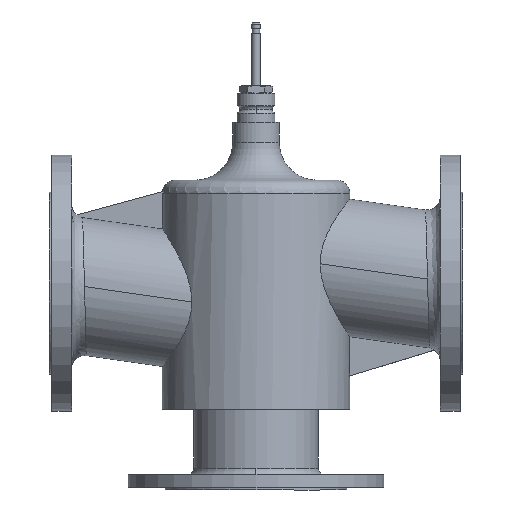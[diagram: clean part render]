
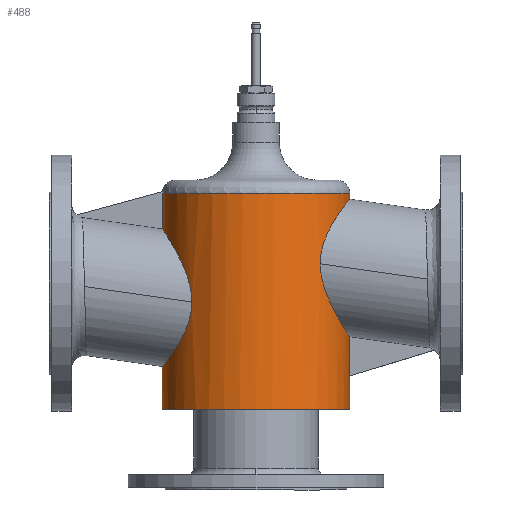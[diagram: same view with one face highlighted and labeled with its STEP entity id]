
A CAD part, left-side view. The second image highlights one B-rep face of the part: STEP entity #488.
In plain terms, the highlighted cylindrical face has radius 108.672 mm (diameter 217.344 mm), a partial arc.
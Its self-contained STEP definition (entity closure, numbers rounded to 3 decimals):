
#91=FACE_OUTER_BOUND('',#812,.T.);
#177=CYLINDRICAL_SURFACE('',#2401,108.672);
#246=ELLIPSE('',#2398,113.596,108.672);
#258=B_SPLINE_CURVE_WITH_KNOTS('',3,(#3591,#3592,#3593,#3594,#3595,#3596,
#3597,#3598,#3599,#3600,#3601,#3602,#3603,#3604,#3605,#3606),.UNSPECIFIED.,
 .F.,.F.,(4,2,2,2,2,2,2,4),(0.,0.125,0.25,0.375,
0.5,0.75,0.875,1.),.UNSPECIFIED.);
#262=B_SPLINE_CURVE_WITH_KNOTS('',3,(#3657,#3658,#3659,#3660,#3661,#3662,
#3663,#3664,#3665,#3666,#3667,#3668,#3669,#3670,#3671,#3672,#3673,#3674),
 .UNSPECIFIED.,.F.,.F.,(4,2,2,2,2,2,2,2,4),(0.,0.125,0.25,0.375,0.5,0.625,
0.75,0.875,1.),.UNSPECIFIED.);
#276=B_SPLINE_CURVE_WITH_KNOTS('',3,(#4368,#4369,#4370,#4371,#4372,#4373,
#4374,#4375,#4376,#4377,#4378,#4379,#4380,#4381,#4382,#4383),.UNSPECIFIED.,
 .F.,.F.,(4,2,2,2,2,2,2,4),(0.,0.125,0.25,0.375,0.5,0.75,0.875,1.),.UNSPECIFIED.);
#277=B_SPLINE_CURVE_WITH_KNOTS('',3,(#4389,#4390,#4391,#4392,#4393,#4394,
#4395,#4396,#4397,#4398,#4399,#4400,#4401,#4402,#4403,#4404,#4405,#4406),
 .UNSPECIFIED.,.F.,.F.,(4,2,2,2,2,2,2,2,4),(0.,0.125,0.25,0.375,0.5,0.625,
0.75,0.875,1.),.UNSPECIFIED.);
#285=LINE('',#3469,#378);
#287=LINE('',#3511,#380);
#289=LINE('',#3553,#382);
#299=LINE('',#4028,#392);
#303=LINE('',#4419,#396);
#378=VECTOR('',#2697,1.);
#380=VECTOR('',#2701,1.);
#382=VECTOR('',#2705,1.);
#392=VECTOR('',#2739,1.);
#396=VECTOR('',#2763,1.);
#488=ADVANCED_FACE('',(#91),#177,.T.);
#812=EDGE_LOOP('',(#1140,#1141,#1142,#1143,#1144,#1145,#1146,#1147,#1148,
#1149,#1150,#1151));
#1140=ORIENTED_EDGE('',*,*,#1896,.T.);
#1141=ORIENTED_EDGE('',*,*,#1885,.F.);
#1142=ORIENTED_EDGE('',*,*,#1906,.T.);
#1143=ORIENTED_EDGE('',*,*,#1951,.F.);
#1144=ORIENTED_EDGE('',*,*,#1952,.F.);
#1145=ORIENTED_EDGE('',*,*,#1944,.T.);
#1146=ORIENTED_EDGE('',*,*,#1925,.T.);
#1147=ORIENTED_EDGE('',*,*,#1901,.T.);
#1148=ORIENTED_EDGE('',*,*,#1910,.F.);
#1149=ORIENTED_EDGE('',*,*,#1936,.T.);
#1150=ORIENTED_EDGE('',*,*,#1917,.T.);
#1151=ORIENTED_EDGE('',*,*,#1947,.T.);
#1660=VERTEX_POINT('',#3385);
#1661=VERTEX_POINT('',#3386);
#1672=VERTEX_POINT('',#3470);
#1676=VERTEX_POINT('',#3510);
#1677=VERTEX_POINT('',#3512);
#1681=VERTEX_POINT('',#3552);
#1685=VERTEX_POINT('',#3567);
#1689=VERTEX_POINT('',#3589);
#1691=VERTEX_POINT('',#3607);
#1696=VERTEX_POINT('',#3638);
#1707=VERTEX_POINT('',#4384);
#1708=VERTEX_POINT('',#4416);
#1885=EDGE_CURVE('',#1661,#1660,#2201,.T.);
#1896=EDGE_CURVE('',#1672,#1660,#285,.T.);
#1901=EDGE_CURVE('',#1677,#1676,#287,.T.);
#1906=EDGE_CURVE('',#1661,#1681,#289,.T.);
#1910=EDGE_CURVE('',#1685,#1676,#2208,.T.);
#1917=EDGE_CURVE('',#1691,#1689,#258,.T.);
#1925=EDGE_CURVE('',#1696,#1677,#262,.T.);
#1936=EDGE_CURVE('',#1685,#1691,#299,.T.);
#1944=EDGE_CURVE('',#1707,#1696,#276,.T.);
#1947=EDGE_CURVE('',#1689,#1672,#277,.T.);
#1951=EDGE_CURVE('',#1708,#1681,#246,.T.);
#1952=EDGE_CURVE('',#1707,#1708,#303,.T.);
#2201=CIRCLE('',#2370,108.672);
#2208=CIRCLE('',#2380,108.672);
#2370=AXIS2_PLACEMENT_3D('',#3387,#2683,#2684);
#2380=AXIS2_PLACEMENT_3D('',#3568,#2710,#2711);
#2398=AXIS2_PLACEMENT_3D('',#4417,#2759,#2760);
#2401=AXIS2_PLACEMENT_3D('',#4421,#2766,#2767);
#2683=DIRECTION('',(0.,0.,-1.));
#2684=DIRECTION('',(-1.,0.,0.));
#2697=DIRECTION('',(0.,0.,-1.));
#2701=DIRECTION('',(0.,0.,1.));
#2705=DIRECTION('',(0.,0.,1.));
#2710=DIRECTION('',(0.,0.,1.));
#2711=DIRECTION('',(1.,0.,0.));
#2739=DIRECTION('',(0.,0.,-1.));
#2759=DIRECTION('',(0.,0.291,0.957));
#2760=DIRECTION('',(0.,0.957,-0.291));
#2763=DIRECTION('',(0.,0.,-1.));
#2766=DIRECTION('',(0.,0.,-1.));
#2767=DIRECTION('',(0.,-1.,0.));
#3385=CARTESIAN_POINT('',(0.,588.672,-146.354));
#3386=CARTESIAN_POINT('',(0.,371.328,-146.354));
#3387=CARTESIAN_POINT('',(0.,480.,-146.354));
#3469=CARTESIAN_POINT('',(0.,588.672,-96.697));
#3470=CARTESIAN_POINT('',(0.,588.672,-96.697));
#3510=CARTESIAN_POINT('',(0.,371.328,104.373));
#3511=CARTESIAN_POINT('',(0.,371.328,97.456));
#3512=CARTESIAN_POINT('',(0.,371.328,97.456));
#3552=CARTESIAN_POINT('',(0.,371.328,-107.698));
#3553=CARTESIAN_POINT('',(0.,371.328,-133.454));
#3567=CARTESIAN_POINT('',(-5.998,588.507,104.373));
#3568=CARTESIAN_POINT('',(0.,480.,104.373));
#3589=CARTESIAN_POINT('',(-79.046,554.574,-21.715));
#3591=CARTESIAN_POINT('',(-5.998,588.507,62.743));
#3592=CARTESIAN_POINT('',(-11.351,588.211,62.29));
#3593=CARTESIAN_POINT('',(-16.496,587.532,61.25));
#3594=CARTESIAN_POINT('',(-26.423,585.532,58.136));
#3595=CARTESIAN_POINT('',(-31.234,584.193,56.032));
#3596=CARTESIAN_POINT('',(-40.102,581.111,51.063));
#3597=CARTESIAN_POINT('',(-44.236,579.353,48.172));
#3598=CARTESIAN_POINT('',(-51.884,575.582,41.718));
#3599=CARTESIAN_POINT('',(-55.33,573.605,38.218));
#3600=CARTESIAN_POINT('',(-64.719,567.614,26.942));
#3601=CARTESIAN_POINT('',(-69.776,563.451,18.279));
#3602=CARTESIAN_POINT('',(-75.1,558.584,4.23));
#3603=CARTESIAN_POINT('',(-76.516,557.181,-0.657));
#3604=CARTESIAN_POINT('',(-78.506,555.156,-10.997));
#3605=CARTESIAN_POINT('',(-79.046,554.574,-16.323));
#3606=CARTESIAN_POINT('',(-79.046,554.574,-21.715));
#3607=CARTESIAN_POINT('',(-5.998,588.507,62.743));
#3638=CARTESIAN_POINT('',(-79.046,405.426,22.474));
#3657=CARTESIAN_POINT('',(-79.046,405.426,22.474));
#3658=CARTESIAN_POINT('',(-79.046,405.426,27.845));
#3659=CARTESIAN_POINT('',(-78.515,404.852,33.063));
#3660=CARTESIAN_POINT('',(-76.41,402.712,43.222));
#3661=CARTESIAN_POINT('',(-74.819,401.139,48.148));
#3662=CARTESIAN_POINT('',(-70.792,397.504,57.251));
#3663=CARTESIAN_POINT('',(-68.309,395.406,61.548));
#3664=CARTESIAN_POINT('',(-62.631,391.12,69.415));
#3665=CARTESIAN_POINT('',(-59.44,388.93,73.001));
#3666=CARTESIAN_POINT('',(-52.325,384.664,79.576));
#3667=CARTESIAN_POINT('',(-48.365,382.575,82.578));
#3668=CARTESIAN_POINT('',(-39.957,378.836,87.765));
#3669=CARTESIAN_POINT('',(-35.484,377.164,89.983));
#3670=CARTESIAN_POINT('',(-25.935,374.35,93.649));
#3671=CARTESIAN_POINT('',(-20.858,373.222,95.077));
#3672=CARTESIAN_POINT('',(-10.605,371.722,96.967));
#3673=CARTESIAN_POINT('',(-5.364,371.328,97.456));
#3674=CARTESIAN_POINT('',(0.,371.328,97.456));
#4028=CARTESIAN_POINT('',(-5.998,588.507,104.373));
#4368=CARTESIAN_POINT('',(-5.998,371.493,-61.984));
#4369=CARTESIAN_POINT('',(-11.351,371.789,-61.53));
#4370=CARTESIAN_POINT('',(-16.496,372.468,-60.491));
#4371=CARTESIAN_POINT('',(-26.423,374.468,-57.377));
#4372=CARTESIAN_POINT('',(-31.234,375.807,-55.272));
#4373=CARTESIAN_POINT('',(-40.102,378.889,-50.303));
#4374=CARTESIAN_POINT('',(-44.236,380.647,-47.413));
#4375=CARTESIAN_POINT('',(-51.884,384.418,-40.959));
#4376=CARTESIAN_POINT('',(-55.33,386.395,-37.458));
#4377=CARTESIAN_POINT('',(-64.719,392.386,-26.183));
#4378=CARTESIAN_POINT('',(-69.776,396.549,-17.52));
#4379=CARTESIAN_POINT('',(-75.1,401.416,-3.471));
#4380=CARTESIAN_POINT('',(-76.516,402.819,1.416));
#4381=CARTESIAN_POINT('',(-78.506,404.844,11.756));
#4382=CARTESIAN_POINT('',(-79.046,405.426,17.083));
#4383=CARTESIAN_POINT('',(-79.046,405.426,22.474));
#4384=CARTESIAN_POINT('',(-5.998,371.493,-61.984));
#4389=CARTESIAN_POINT('',(-79.046,554.574,-21.715));
#4390=CARTESIAN_POINT('',(-79.046,554.574,-27.085));
#4391=CARTESIAN_POINT('',(-78.515,555.148,-32.304));
#4392=CARTESIAN_POINT('',(-76.41,557.288,-42.462));
#4393=CARTESIAN_POINT('',(-74.819,558.861,-47.389));
#4394=CARTESIAN_POINT('',(-70.792,562.496,-56.492));
#4395=CARTESIAN_POINT('',(-68.309,564.594,-60.789));
#4396=CARTESIAN_POINT('',(-62.631,568.88,-68.656));
#4397=CARTESIAN_POINT('',(-59.44,571.07,-72.241));
#4398=CARTESIAN_POINT('',(-52.325,575.336,-78.816));
#4399=CARTESIAN_POINT('',(-48.365,577.425,-81.818));
#4400=CARTESIAN_POINT('',(-39.957,581.164,-87.005));
#4401=CARTESIAN_POINT('',(-35.484,582.836,-89.224));
#4402=CARTESIAN_POINT('',(-25.935,585.65,-92.889));
#4403=CARTESIAN_POINT('',(-20.858,586.778,-94.318));
#4404=CARTESIAN_POINT('',(-10.605,588.278,-96.207));
#4405=CARTESIAN_POINT('',(-5.364,588.672,-96.697));
#4406=CARTESIAN_POINT('',(0.,588.672,-96.697));
#4416=CARTESIAN_POINT('',(-5.998,371.493,-107.749));
#4417=CARTESIAN_POINT('',(0.,480.,-140.78));
#4419=CARTESIAN_POINT('',(-5.998,371.493,-61.984));
#4421=CARTESIAN_POINT('',(0.,480.,-7.041));
